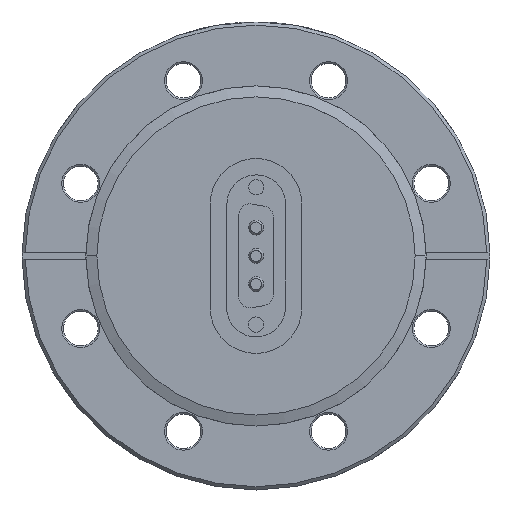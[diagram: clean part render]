
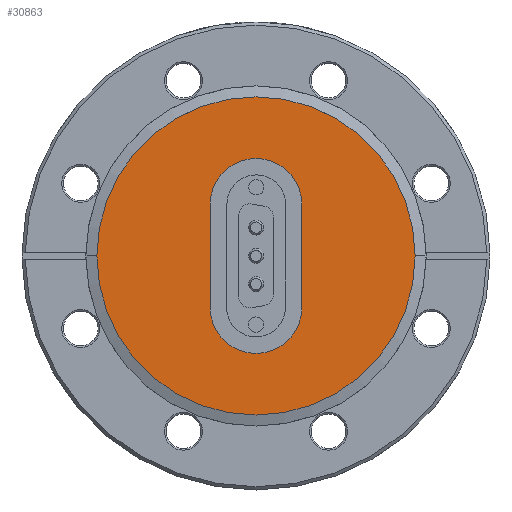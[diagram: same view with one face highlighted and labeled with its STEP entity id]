
A CAD part, top view. The second image highlights one B-rep face of the part: STEP entity #30863.
In plain terms, the highlighted planar face has unit normal (0, 0, 1).
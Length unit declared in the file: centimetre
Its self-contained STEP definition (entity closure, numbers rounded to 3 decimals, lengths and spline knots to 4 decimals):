
#196 = EDGE_LOOP ( 'NONE', ( #36982, #36964 ) ) ;
#207 = EDGE_LOOP ( 'NONE', ( #37004, #36992, #36958, #37014, #36933 ) ) ;
#4486 = EDGE_CURVE ( 'NONE', #26530, #26515, #26325, .T. ) ;
#4491 = EDGE_CURVE ( 'NONE', #25903, #25902, #26333, .T. ) ;
#4531 = EDGE_CURVE ( 'NONE', #26381, #25923, #33440, .T. ) ;
#4533 = EDGE_CURVE ( 'NONE', #25880, #26530, #33441, .T. ) ;
#4573 = EDGE_CURVE ( 'NONE', #26515, #26381, #33498, .T. ) ;
#5537 = EDGE_CURVE ( 'NONE', #25902, #25903, #33757, .T. ) ;
#5552 = EDGE_CURVE ( 'NONE', #25923, #25880, #33780, .T. ) ;
#9797 = CARTESIAN_POINT ( 'NONE',  ( -1.1116, -1.2546, -0.1295 ) ) ;
#9819 = CARTESIAN_POINT ( 'NONE',  ( -3.8608, 0., -0.1295 ) ) ;
#9820 = CARTESIAN_POINT ( 'NONE',  ( 3.8608, 0., -0.1295 ) ) ;
#9840 = CARTESIAN_POINT ( 'NONE',  ( -1.1116, -1.2548, -0.1295 ) ) ;
#9893 = CARTESIAN_POINT ( 'NONE',  ( 1.1109, -1.2549, -0.1295 ) ) ;
#9961 = CARTESIAN_POINT ( 'NONE',  ( 1.1112, 1.2546, -0.1295 ) ) ;
#9964 = CARTESIAN_POINT ( 'NONE',  ( -1.1112, 1.2549, -0.1295 ) ) ;
#12035 = AXIS2_PLACEMENT_3D ( 'NONE', #32868, #32869, #32870 ) ;
#12039 = AXIS2_PLACEMENT_3D ( 'NONE', #32880, #32881, #32882 ) ;
#12064 = AXIS2_PLACEMENT_3D ( 'NONE', #32989, #32990, #32991 ) ;
#12158 = AXIS2_PLACEMENT_3D ( 'NONE', #14046, #14047, #14048 ) ;
#12165 = AXIS2_PLACEMENT_3D ( 'NONE', #26934, #26935, #26936 ) ;
#12316 = AXIS2_PLACEMENT_3D ( 'NONE', #24223, #24228, #24229 ) ;
#14046 = CARTESIAN_POINT ( 'NONE',  ( 0., 0., -0.1295 ) ) ;
#14047 = DIRECTION ( 'NONE',  ( 0., 0., 1. ) ) ;
#14048 = DIRECTION ( 'NONE',  ( -1., 0., 0. ) ) ;
#24223 = CARTESIAN_POINT ( 'NONE',  ( -3.8608, 0., -0.1295 ) ) ;
#24226 = PLANE ( 'NONE',  #12316 ) ;
#24228 = DIRECTION ( 'NONE',  ( 0., 0., 1. ) ) ;
#24229 = DIRECTION ( 'NONE',  ( 1., 0., 0. ) ) ;
#25286 = FACE_OUTER_BOUND ( 'NONE', #196, .T. ) ;
#25289 = FACE_BOUND ( 'NONE', #207, .T. ) ;
#25880 = VERTEX_POINT ( 'NONE', #9797 ) ;
#25902 = VERTEX_POINT ( 'NONE', #9819 ) ;
#25903 = VERTEX_POINT ( 'NONE', #9820 ) ;
#25923 = VERTEX_POINT ( 'NONE', #9840 ) ;
#26325 = CIRCLE ( 'NONE', #12035, 1.1113 ) ;
#26333 = CIRCLE ( 'NONE', #12039, 3.8608 ) ;
#26381 = VERTEX_POINT ( 'NONE', #9893 ) ;
#26515 = VERTEX_POINT ( 'NONE', #9961 ) ;
#26530 = VERTEX_POINT ( 'NONE', #9964 ) ;
#26934 = CARTESIAN_POINT ( 'NONE',  ( -0.0003, -1.2548, -0.1295 ) ) ;
#26935 = DIRECTION ( 'NONE',  ( 0., 0., -1. ) ) ;
#26936 = DIRECTION ( 'NONE',  ( -1., 0., 0. ) ) ;
#30863 = ADVANCED_FACE ( 'NONE', ( #25286, #25289 ), #24226, .T. ) ;
#32868 = CARTESIAN_POINT ( 'NONE',  ( 0., 1.2548, -0.1295 ) ) ;
#32869 = DIRECTION ( 'NONE',  ( 0., 0., -1. ) ) ;
#32870 = DIRECTION ( 'NONE',  ( -1., 0., 0. ) ) ;
#32880 = CARTESIAN_POINT ( 'NONE',  ( 0., 0., -0.1295 ) ) ;
#32881 = DIRECTION ( 'NONE',  ( 0., 0., 1. ) ) ;
#32882 = DIRECTION ( 'NONE',  ( -1., 0., 0. ) ) ;
#32988 = DIRECTION ( 'NONE',  ( 0., 1., 0. ) ) ;
#32989 = CARTESIAN_POINT ( 'NONE',  ( -0.0003, -1.2548, -0.1295 ) ) ;
#32990 = DIRECTION ( 'NONE',  ( 0., 0., -1. ) ) ;
#32991 = DIRECTION ( 'NONE',  ( -1., 0., 0. ) ) ;
#32993 = CARTESIAN_POINT ( 'NONE',  ( -1.1116, -1.2546, -0.1295 ) ) ;
#33099 = CARTESIAN_POINT ( 'NONE',  ( 1.1112, 1.2546, -0.1295 ) ) ;
#33106 = DIRECTION ( 'NONE',  ( 0., -1., 0. ) ) ;
#33440 = CIRCLE ( 'NONE', #12064, 1.1112 ) ;
#33441 = LINE ( 'NONE', #32993, #33446 ) ;
#33446 = VECTOR ( 'NONE', #32988, 100. ) ;
#33498 = LINE ( 'NONE', #33099, #33502 ) ;
#33502 = VECTOR ( 'NONE', #33106, 100. ) ;
#33757 = CIRCLE ( 'NONE', #12158, 3.8608 ) ;
#33780 = CIRCLE ( 'NONE', #12165, 1.1112 ) ;
#36933 = ORIENTED_EDGE ( 'NONE', *, *, #4573, .T. ) ;
#36958 = ORIENTED_EDGE ( 'NONE', *, *, #4533, .T. ) ;
#36964 = ORIENTED_EDGE ( 'NONE', *, *, #4491, .T. ) ;
#36982 = ORIENTED_EDGE ( 'NONE', *, *, #5537, .T. ) ;
#36992 = ORIENTED_EDGE ( 'NONE', *, *, #5552, .T. ) ;
#37004 = ORIENTED_EDGE ( 'NONE', *, *, #4531, .T. ) ;
#37014 = ORIENTED_EDGE ( 'NONE', *, *, #4486, .T. ) ;
